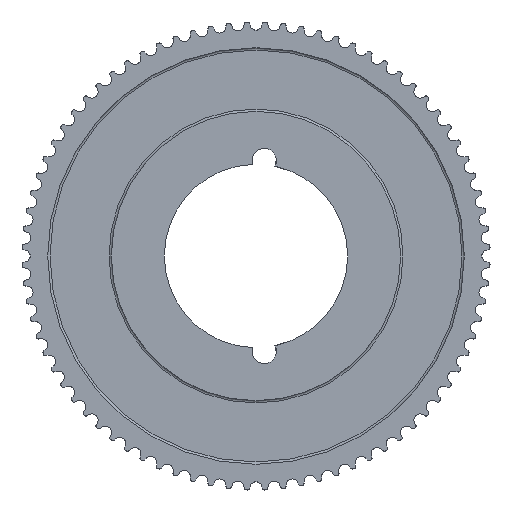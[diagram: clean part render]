
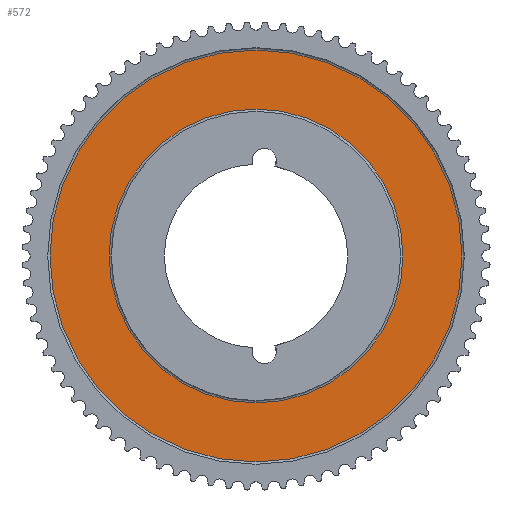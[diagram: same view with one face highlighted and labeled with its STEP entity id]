
A CAD part, left-side view. The second image highlights one B-rep face of the part: STEP entity #572.
In plain terms, the highlighted planar face has unit normal (-1, 0, 0).
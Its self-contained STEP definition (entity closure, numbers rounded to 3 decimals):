
#572 = ADVANCED_FACE( '', ( #1582, #1583 ), #1584, .T. );
#1582 = FACE_BOUND( '', #2597, .T. );
#1583 = FACE_OUTER_BOUND( '', #2598, .T. );
#1584 = PLANE( '', #2599 );
#2597 = EDGE_LOOP( '', ( #7032 ) );
#2598 = EDGE_LOOP( '', ( #7033 ) );
#2599 = AXIS2_PLACEMENT_3D( '', #7034, #7035, #7036 );
#7032 = ORIENTED_EDGE( '', *, *, #8516, .T. );
#7033 = ORIENTED_EDGE( '', *, *, #8515, .F. );
#7034 = CARTESIAN_POINT( '', ( 12.667, 89., 0. ) );
#7035 = DIRECTION( '', ( -1., 0., 0. ) );
#7036 = DIRECTION( '', ( 0., 0., 1. ) );
#8515 = EDGE_CURVE( '', #10966, #10966, #10967, .T. );
#8516 = EDGE_CURVE( '', #10968, #10968, #10969, .T. );
#10966 = VERTEX_POINT( '', #14269 );
#10967 = CIRCLE( '', #14270, 89. );
#10968 = VERTEX_POINT( '', #14271 );
#10969 = CIRCLE( '', #14272, 63.5 );
#14269 = CARTESIAN_POINT( '', ( 12.667, 0., -89. ) );
#14270 = AXIS2_PLACEMENT_3D( '', #17055, #17056, #17057 );
#14271 = CARTESIAN_POINT( '', ( 12.667, 0., -63.5 ) );
#14272 = AXIS2_PLACEMENT_3D( '', #17058, #17059, #17060 );
#17055 = CARTESIAN_POINT( '', ( 12.667, 0., 0. ) );
#17056 = DIRECTION( '', ( 1., 0., 0. ) );
#17057 = DIRECTION( '', ( 0., 0., -1. ) );
#17058 = CARTESIAN_POINT( '', ( 12.667, 0., 0. ) );
#17059 = DIRECTION( '', ( 1., 0., 0. ) );
#17060 = DIRECTION( '', ( 0., 0., -1. ) );
